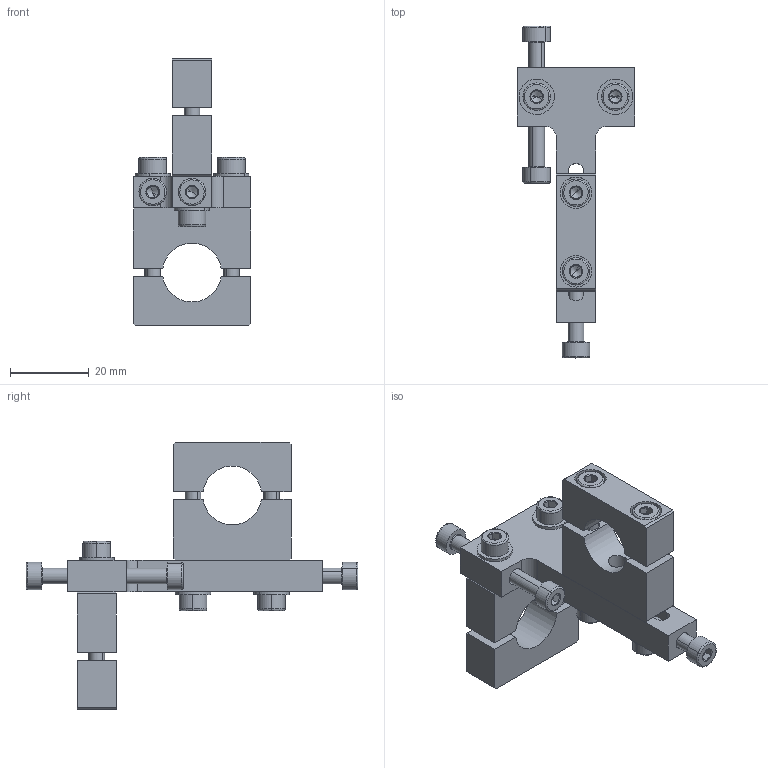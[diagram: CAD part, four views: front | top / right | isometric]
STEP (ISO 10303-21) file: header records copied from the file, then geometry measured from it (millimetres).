
FILE_DESCRIPTION (( 'STEP AP203' ), '1' );
FILE_NAME ('B3-LD.STEP', '2011-12-20T12:38:16', ( '' ), ( '' ), 'SwSTEP 2.0', 'SolidWorks 2010', '' );
FILE_SCHEMA (( 'CONFIG_CONTROL_DESIGN' ));
Length unit declared in the file: millimetre
Products named in the file (7): B3-LD_DIN 912 8.8 VZ M04.0_M4 x 20; B3-LD; B3-LD_mec005205 T-Stück; B3-LD_DIN 912 8.8 VZ M04.0_M4 x 14; B3-LD_DIN 125 VZ M4_M04.0; B3-LD_mec005200 B2-LD; B3-LD_DIN 912 8.8 VZ M04.0_M4 x 16
Assembly tree (18 placements, depth 2):
  B3-LD
    B3-LD_DIN 912 8.8 VZ M04.0_M4 x 14  x4
    B3-LD_DIN 912 8.8 VZ M04.0_M4 x 20  x4
    B3-LD_mec005200 B2-LD  x2
    B3-LD_DIN 125 VZ M4_M04.0  x4
    B3-LD_DIN 912 8.8 VZ M04.0_M4 x 16  x3
    B3-LD_mec005205 T-Stück
Bounding box: 30 x 84.5 x 68 mm (x, y, z)
Volume: 21821.7 mm3; surface area: 16825.3 mm2
Topology: 20 solids, 20 shells, 474 faces, 1078 edges, 647 vertices
Faces by surface type: plane 230, cylinder 108, cone 92, torus 44
Entity records: 6531 total; most frequent: CARTESIAN_POINT 1230, DIRECTION 952, ORIENTED_EDGE 828, EDGE_CURVE 414, AXIS2_PLACEMENT_3D 365, VERTEX_POINT 257, VECTOR 222, LINE 222
